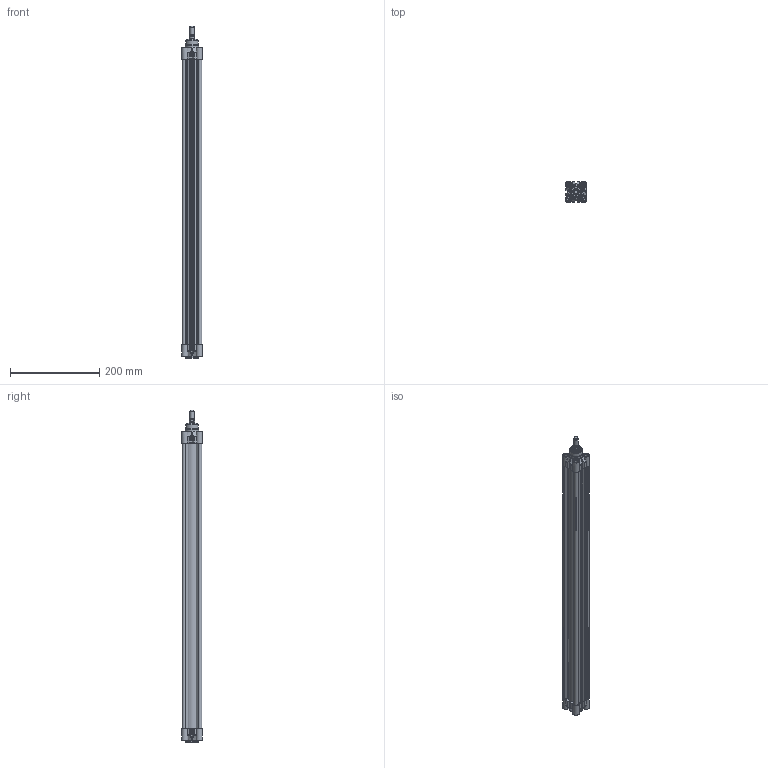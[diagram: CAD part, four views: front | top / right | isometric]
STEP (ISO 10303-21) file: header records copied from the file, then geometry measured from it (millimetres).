
FILE_DESCRIPTION(/* description */ ('CILINDRO D.E. MAGNETICO AMMORTIZZATO ISO 15552'),/* implementation_level */ '2;1');
FILE_NAME(/* name */ 'T:\Archivio Inventor\- 00 NUOVI STP PER SITO CON STELO CHE SI MUOVE\SERIE H - U\SERIE HDM\HDM032-TUBO NUOVO\HDM032.600.GS.M.stp',/* time_stamp */ '2018-07-25T14:29:51+02:00',/* author */ ('carlo.corazza'),/* organization */ (''),/* preprocessor_version */ 'ST-DEVELOPER v16.5',/* originating_system */ 'Autodesk Inventor 2017',/* authorisation */ '');
FILE_SCHEMA (('AUTOMOTIVE_DESIGN { 1 0 10303 214 3 1 1 }'));
Length unit declared in the file: millimetre
Products named in the file (5): HDM032.600.GS.M; TP; STELO-600; TA; CORPO-600
Assembly tree (4 placements, depth 2):
  HDM032.600.GS.M
    TP
    STELO-600
    TA
    CORPO-600
Bounding box: 47 x 47 x 746 mm (x, y, z)
Volume: 492847.1 mm3; surface area: 369703.4 mm2
Topology: 4 solids, 18 shells, 969 faces, 2356 edges, 1494 vertices
Faces by surface type: plane 330, cylinder 260, bspline 190, cone 86, torus 83, sphere 20
Full cylindrical faces by diameter (mm): 2 x2, 2.1 x2, 4 x2, 4.5 x2, 4.917 x8, 6 x8, 6.2 x8, 6.3 x4, 7 x2, 7.8 x4, 7.9 x3, 8 x4, 8.566 x2, 10 x9, 10.3 x8, 11.6 x1, 12 x1, 12.8 x1, 12.847 x1, 16 x1, 17 x2, 22 x3, 28 x1, 30 x2, 32 x1
Entity records: 31186 total; most frequent: CARTESIAN_POINT 9171, ORIENTED_EDGE 4162, DIRECTION 4048, EDGE_CURVE 2081, AXIS2_PLACEMENT_3D 1569, VERTEX_POINT 1436, EDGE_LOOP 1302, FACE_OUTER_BOUND 969
